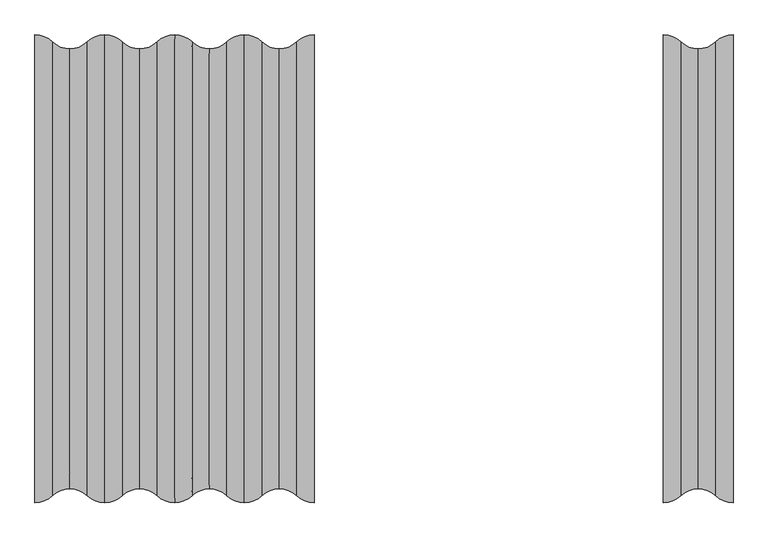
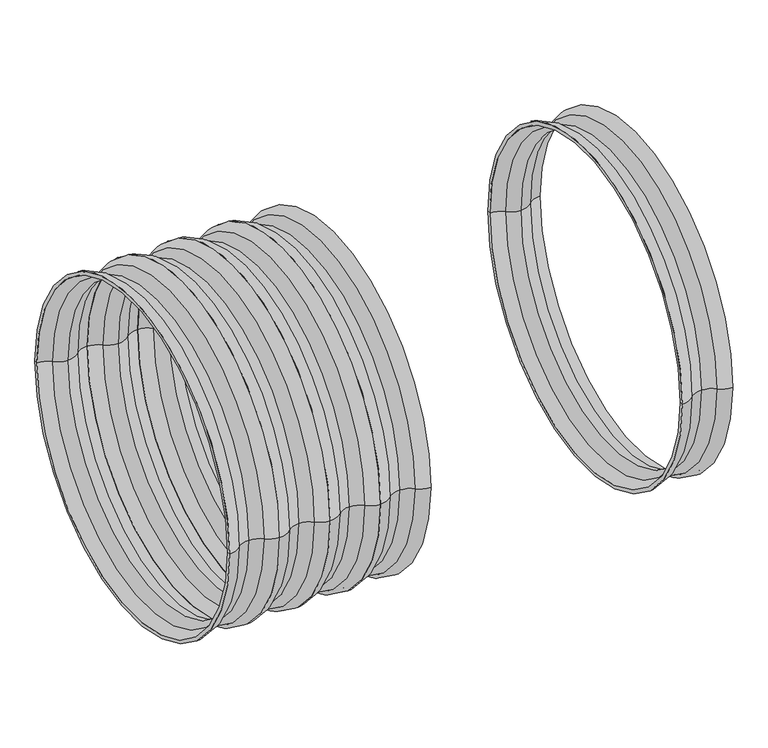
"""IFC4 building model written with IfcOpenShell, lengths in millimetres: pipe fitting geometry, Z_PIF_UN_Q-Bic_Plus_Shaft_Pipe_Wavin_(nested) : PP, RAL8012, ø600mm."""

from ifc_helpers import new_model, si_unit, point, frame, origin, place, context, project, spatial, circle_curve, ellipse_curve, trimmed, source, transform, mapped, element, save
from ifc_brep_helpers import plane_surface, revolved_surface, advanced_brep


def pipe_fitting_3dd59946(model_context):
    return source(origin(), model_context, "Body", "AdvancedBrep", [
        advanced_brep(
        [(400.0, -335.0, 0.0), (400.0, 335.0, 0.0), (425.0, 325.0, 0.0), (425.0, -325.0, 0.0), (400.0, -328.0, 0.0), (400.0, 328.0, 0.0), (425.0, -318.0, 0.0), (425.0, 318.0, 0.0), (450.0, -308.0, 0.0), (450.0, 308.0, 0.0), (475.0, -318.0, 0.0), (475.0, 318.0, 0.0), (500.0, -328.0, 0.0), (500.0, 328.0, 0.0), (500.0, -335.0, 0.0), (500.0, 335.0, 0.0), (475.0, -325.0, 0.0), (475.0, 325.0, 0.0), (450.0, -315.0, 0.0), (450.0, 315.0, 0.0)],
        [
            (0, 1, circle_curve(frame((400.0, 0.0, 0.0), z_axis=(1.0, 0.0, 0.0), x_axis=(0.0, 1.0, 0.0)), 335.0)),
            (1, 2, circle_curve(frame((400.0, 298.75, 0.0), z_axis=(0.0, 0.0, -1.0), x_axis=(1.0, 0.0, 0.0)), 36.25)),
            (2, 3, circle_curve(frame((425.0, 0.0, 0.0), z_axis=(-1.0, 0.0, 0.0), x_axis=(0.0, 1.0, 0.0)), 325.0)),
            (3, 0, circle_curve(frame((400.0, -298.75, 0.0), z_axis=(0.0, 0.0, -1.0), x_axis=(1.0, 0.0, 0.0)), 36.25)),
            (1, 0, circle_curve(frame((400.0, 0.0, 0.0), z_axis=(1.0, 0.0, 0.0), x_axis=(0.0, 1.0, 0.0)), 335.0)),
            (3, 2, circle_curve(frame((425.0, 0.0, 0.0), z_axis=(-1.0, 0.0, 0.0), x_axis=(0.0, 1.0, 0.0)), 325.0)),
            (4, 5, circle_curve(frame((400.0, 0.0, 0.0), z_axis=(1.0, 0.0, 0.0), x_axis=(0.0, 1.0, 0.0)), 328.0)),
            (5, 1),
            (0, 4),
            (5, 4, circle_curve(frame((400.0, 0.0, 0.0), z_axis=(1.0, 0.0, 0.0), x_axis=(0.0, 1.0, 0.0)), 328.0)),
            (6, 7, circle_curve(frame((425.0, 0.0, 0.0), z_axis=(1.0, 0.0, 0.0), x_axis=(0.0, 1.0, 0.0)), 318.0)),
            (7, 5, circle_curve(frame((400.0, 291.75, 0.0), z_axis=(0.0, 0.0, 1.0), x_axis=(1.0, 0.0, 0.0)), 36.25)),
            (4, 6, circle_curve(frame((400.0, -291.75, 0.0), z_axis=(0.0, 0.0, 1.0), x_axis=(1.0, 0.0, 0.0)), 36.25)),
            (7, 6, circle_curve(frame((425.0, 0.0, 0.0), z_axis=(1.0, 0.0, 0.0), x_axis=(0.0, 1.0, 0.0)), 318.0)),
            (8, 9, circle_curve(frame((450.0, 0.0, 0.0), z_axis=(1.0, 0.0, 0.0), x_axis=(0.0, 1.0, 0.0)), 308.0)),
            (9, 7, circle_curve(frame((450.0, 344.25, 0.0), z_axis=(0.0, 0.0, -1.0), x_axis=(1.0, 0.0, 0.0)), 36.25)),
            (6, 8, circle_curve(frame((450.0, -344.25, 0.0), z_axis=(0.0, 0.0, -1.0), x_axis=(1.0, 0.0, 0.0)), 36.25)),
            (9, 8, circle_curve(frame((450.0, 0.0, 0.0), z_axis=(1.0, 0.0, 0.0), x_axis=(0.0, 1.0, 0.0)), 308.0)),
            (10, 11, circle_curve(frame((475.0, 0.0, 0.0), z_axis=(1.0, 0.0, 0.0), x_axis=(0.0, 1.0, 0.0)), 318.0)),
            (11, 9, circle_curve(frame((450.0, 344.25, 0.0), z_axis=(0.0, 0.0, -1.0), x_axis=(1.0, 0.0, 0.0)), 36.25)),
            (8, 10, circle_curve(frame((450.0, -344.25, 0.0), z_axis=(0.0, 0.0, -1.0), x_axis=(1.0, 0.0, 0.0)), 36.25)),
            (11, 10, circle_curve(frame((475.0, 0.0, 0.0), z_axis=(1.0, 0.0, 0.0), x_axis=(0.0, 1.0, 0.0)), 318.0)),
            (12, 13, circle_curve(frame((500.0, 0.0, 0.0), z_axis=(1.0, 0.0, 0.0), x_axis=(0.0, 1.0, 0.0)), 328.0)),
            (13, 11, circle_curve(frame((500.0, 291.75, 0.0), z_axis=(0.0, 0.0, 1.0), x_axis=(1.0, 0.0, 0.0)), 36.25)),
            (10, 12, circle_curve(frame((500.0, -291.75, 0.0), z_axis=(0.0, 0.0, 1.0), x_axis=(1.0, 0.0, 0.0)), 36.25)),
            (13, 12, circle_curve(frame((500.0, 0.0, 0.0), z_axis=(1.0, 0.0, 0.0), x_axis=(0.0, 1.0, 0.0)), 328.0)),
            (14, 15, circle_curve(frame((500.0, 0.0, 0.0), z_axis=(1.0, 0.0, 0.0), x_axis=(0.0, 1.0, 0.0)), 335.0)),
            (15, 13),
            (12, 14),
            (15, 14, circle_curve(frame((500.0, 0.0, 0.0), z_axis=(1.0, 0.0, 0.0), x_axis=(0.0, 1.0, 0.0)), 335.0)),
            (16, 17, circle_curve(frame((475.0, 0.0, 0.0), z_axis=(1.0, 0.0, 0.0), x_axis=(0.0, 1.0, 0.0)), 325.0)),
            (17, 15, circle_curve(frame((500.0, 298.75, 0.0), z_axis=(0.0, 0.0, -1.0), x_axis=(1.0, 0.0, 0.0)), 36.25)),
            (14, 16, circle_curve(frame((500.0, -298.75, 0.0), z_axis=(0.0, 0.0, -1.0), x_axis=(1.0, 0.0, 0.0)), 36.25)),
            (17, 16, circle_curve(frame((475.0, 0.0, 0.0), z_axis=(1.0, 0.0, 0.0), x_axis=(0.0, 1.0, 0.0)), 325.0)),
            (18, 19, circle_curve(frame((450.0, 0.0, 0.0), z_axis=(1.0, 0.0, 0.0), x_axis=(0.0, 1.0, 0.0)), 315.0)),
            (19, 17, circle_curve(frame((450.0, 351.25, 0.0), z_axis=(0.0, 0.0, 1.0), x_axis=(1.0, 0.0, 0.0)), 36.25)),
            (16, 18, circle_curve(frame((450.0, -351.25, 0.0), z_axis=(0.0, 0.0, 1.0), x_axis=(1.0, 0.0, 0.0)), 36.25)),
            (19, 18, circle_curve(frame((450.0, 0.0, 0.0), z_axis=(1.0, 0.0, 0.0), x_axis=(0.0, 1.0, 0.0)), 315.0)),
            (2, 19, circle_curve(frame((450.0, 351.25, 0.0), z_axis=(0.0, 0.0, 1.0), x_axis=(1.0, 0.0, 0.0)), 36.25)),
            (18, 3, circle_curve(frame((450.0, -351.25, 0.0), z_axis=(0.0, 0.0, 1.0), x_axis=(1.0, 0.0, 0.0)), 36.25)),
        ],
        [
            revolved_surface(trimmed(ellipse_curve(frame((400.0, 298.75, 0.0), z_axis=(0.0, 0.0, 1.0), x_axis=(1.0, 0.0, 0.0)), 36.25, 36.25), [point((425.0, 325.0, 0.0))], [point((400.0, 335.0, 0.0))], True, "CARTESIAN"), (350.0, 0.0, 0.0), (-1.0, 0.0, 0.0)),
            plane_surface(frame((400.0, 0.0, 0.0), z_axis=(-1.0, 0.0, 0.0), x_axis=(0.0, 1.0, 0.0))),
            revolved_surface(trimmed(ellipse_curve(frame((400.0, 291.75, 0.0), z_axis=(0.0, 0.0, -1.0), x_axis=(1.0, 0.0, 0.0)), 36.25, 36.25), [point((400.0, 328.0, 0.0))], [point((425.0, 318.0, 0.0))], True, "CARTESIAN"), (350.0, 0.0, 0.0), (-1.0, 0.0, 0.0)),
            revolved_surface(trimmed(ellipse_curve(frame((450.0, 344.25, 0.0), z_axis=(0.0, 0.0, 1.0), x_axis=(1.0, 0.0, 0.0)), 36.25, 36.25), [point((425.0, 318.0, 0.0))], [point((450.0, 308.0, 0.0))], True, "CARTESIAN"), (350.0, 0.0, 0.0), (-1.0, 0.0, 0.0)),
            revolved_surface(trimmed(ellipse_curve(frame((450.0, 344.25, 0.0), z_axis=(0.0, 0.0, 1.0), x_axis=(1.0, 0.0, 0.0)), 36.25, 36.25), [point((450.0, 308.0, 0.0))], [point((475.0, 318.0, 0.0))], True, "CARTESIAN"), (350.0, 0.0, 0.0), (-1.0, 0.0, 0.0)),
            revolved_surface(trimmed(ellipse_curve(frame((500.0, 291.75, 0.0), z_axis=(0.0, 0.0, -1.0), x_axis=(1.0, 0.0, 0.0)), 36.25, 36.25), [point((475.0, 318.0, 0.0))], [point((500.0, 328.0, 0.0))], True, "CARTESIAN"), (350.0, 0.0, 0.0), (-1.0, 0.0, 0.0)),
            plane_surface(frame((500.0, 0.0, 0.0), z_axis=(1.0, 0.0, 0.0), x_axis=(0.0, 1.0, 0.0))),
            revolved_surface(trimmed(ellipse_curve(frame((500.0, 298.75, 0.0), z_axis=(0.0, 0.0, 1.0), x_axis=(1.0, 0.0, 0.0)), 36.25, 36.25), [point((500.0, 335.0, 0.0))], [point((475.0, 325.0, 0.0))], True, "CARTESIAN"), (350.0, 0.0, 0.0), (-1.0, 0.0, 0.0)),
            revolved_surface(trimmed(ellipse_curve(frame((450.0, 351.25, 0.0), z_axis=(0.0, 0.0, -1.0), x_axis=(1.0, 0.0, 0.0)), 36.25, 36.25), [point((475.0, 325.0, 0.0))], [point((450.0, 315.0, 0.0))], True, "CARTESIAN"), (350.0, 0.0, 0.0), (-1.0, 0.0, 0.0)),
            revolved_surface(trimmed(ellipse_curve(frame((450.0, 351.25, 0.0), z_axis=(0.0, 0.0, -1.0), x_axis=(1.0, 0.0, 0.0)), 36.25, 36.25), [point((450.0, 315.0, 0.0))], [point((425.0, 325.0, 0.0))], True, "CARTESIAN"), (350.0, 0.0, 0.0), (-1.0, 0.0, 0.0)),
        ],
        [
            (0, [[1, 2, 3, 4]]),
            (0, [[5, -4, 6, -2]]),
            (1, [[7, 8, -1, 9]]),
            (1, [[10, -9, -5, -8]]),
            (2, [[11, 12, -7, 13]]),
            (2, [[14, -13, -10, -12]]),
            (3, [[15, 16, -11, 17]]),
            (3, [[18, -17, -14, -16]]),
            (4, [[19, 20, -15, 21]]),
            (4, [[22, -21, -18, -20]]),
            (5, [[23, 24, -19, 25]]),
            (5, [[26, -25, -22, -24]]),
            (6, [[27, 28, -23, 29]]),
            (6, [[30, -29, -26, -28]]),
            (7, [[31, 32, -27, 33]]),
            (7, [[34, -33, -30, -32]]),
            (8, [[35, 36, -31, 37]]),
            (8, [[38, -37, -34, -36]]),
            (9, [[-3, 39, -35, 40]]),
            (9, [[-6, -40, -38, -39]]),
        ],
    ),
        advanced_brep(
        [(300.0, -335.0, 0.0), (300.0, 335.0, 0.0), (325.0, 325.0, 0.0), (325.0, -325.0, 0.0), (300.0, -328.0, 0.0), (300.0, 328.0, 0.0), (325.0, -318.0, 0.0), (325.0, 318.0, 0.0), (350.0, -308.0, 0.0), (350.0, 308.0, 0.0), (375.0, -318.0, 0.0), (375.0, 318.0, 0.0), (400.0, -328.0, 0.0), (400.0, 328.0, 0.0), (400.0, -335.0, 0.0), (400.0, 335.0, 0.0), (375.0, -325.0, 0.0), (375.0, 325.0, 0.0), (350.0, -315.0, 0.0), (350.0, 315.0, 0.0)],
        [
            (0, 1, circle_curve(frame((300.0, 0.0, 0.0), z_axis=(1.0, 0.0, 0.0), x_axis=(0.0, 1.0, 0.0)), 335.0)),
            (1, 2, circle_curve(frame((300.0, 298.75, 0.0), z_axis=(0.0, 0.0, -1.0), x_axis=(1.0, 0.0, 0.0)), 36.25)),
            (2, 3, circle_curve(frame((325.0, 0.0, 0.0), z_axis=(-1.0, 0.0, 0.0), x_axis=(0.0, 1.0, 0.0)), 325.0)),
            (3, 0, circle_curve(frame((300.0, -298.75, 0.0), z_axis=(0.0, 0.0, -1.0), x_axis=(1.0, 0.0, 0.0)), 36.25)),
            (1, 0, circle_curve(frame((300.0, 0.0, 0.0), z_axis=(1.0, 0.0, 0.0), x_axis=(0.0, 1.0, 0.0)), 335.0)),
            (3, 2, circle_curve(frame((325.0, 0.0, 0.0), z_axis=(-1.0, 0.0, 0.0), x_axis=(0.0, 1.0, 0.0)), 325.0)),
            (4, 5, circle_curve(frame((300.0, 0.0, 0.0), z_axis=(1.0, 0.0, 0.0), x_axis=(0.0, 1.0, 0.0)), 328.0)),
            (5, 1),
            (0, 4),
            (5, 4, circle_curve(frame((300.0, 0.0, 0.0), z_axis=(1.0, 0.0, 0.0), x_axis=(0.0, 1.0, 0.0)), 328.0)),
            (6, 7, circle_curve(frame((325.0, 0.0, 0.0), z_axis=(1.0, 0.0, 0.0), x_axis=(0.0, 1.0, 0.0)), 318.0)),
            (7, 5, circle_curve(frame((300.0, 291.75, 0.0), z_axis=(0.0, 0.0, 1.0), x_axis=(1.0, 0.0, 0.0)), 36.25)),
            (4, 6, circle_curve(frame((300.0, -291.75, 0.0), z_axis=(0.0, 0.0, 1.0), x_axis=(1.0, 0.0, 0.0)), 36.25)),
            (7, 6, circle_curve(frame((325.0, 0.0, 0.0), z_axis=(1.0, 0.0, 0.0), x_axis=(0.0, 1.0, 0.0)), 318.0)),
            (8, 9, circle_curve(frame((350.0, 0.0, 0.0), z_axis=(1.0, 0.0, 0.0), x_axis=(0.0, 1.0, 0.0)), 308.0)),
            (9, 7, circle_curve(frame((350.0, 344.25, 0.0), z_axis=(0.0, 0.0, -1.0), x_axis=(1.0, 0.0, 0.0)), 36.25)),
            (6, 8, circle_curve(frame((350.0, -344.25, 0.0), z_axis=(0.0, 0.0, -1.0), x_axis=(1.0, 0.0, 0.0)), 36.25)),
            (9, 8, circle_curve(frame((350.0, 0.0, 0.0), z_axis=(1.0, 0.0, 0.0), x_axis=(0.0, 1.0, 0.0)), 308.0)),
            (10, 11, circle_curve(frame((375.0, 0.0, 0.0), z_axis=(1.0, 0.0, 0.0), x_axis=(0.0, 1.0, 0.0)), 318.0)),
            (11, 9, circle_curve(frame((350.0, 344.25, 0.0), z_axis=(0.0, 0.0, -1.0), x_axis=(1.0, 0.0, 0.0)), 36.25)),
            (8, 10, circle_curve(frame((350.0, -344.25, 0.0), z_axis=(0.0, 0.0, -1.0), x_axis=(1.0, 0.0, 0.0)), 36.25)),
            (11, 10, circle_curve(frame((375.0, 0.0, 0.0), z_axis=(1.0, 0.0, 0.0), x_axis=(0.0, 1.0, 0.0)), 318.0)),
            (12, 13, circle_curve(frame((400.0, 0.0, 0.0), z_axis=(1.0, 0.0, 0.0), x_axis=(0.0, 1.0, 0.0)), 328.0)),
            (13, 11, circle_curve(frame((400.0, 291.75, 0.0), z_axis=(0.0, 0.0, 1.0), x_axis=(1.0, 0.0, 0.0)), 36.25)),
            (10, 12, circle_curve(frame((400.0, -291.75, 0.0), z_axis=(0.0, 0.0, 1.0), x_axis=(1.0, 0.0, 0.0)), 36.25)),
            (13, 12, circle_curve(frame((400.0, 0.0, 0.0), z_axis=(1.0, 0.0, 0.0), x_axis=(0.0, 1.0, 0.0)), 328.0)),
            (14, 15, circle_curve(frame((400.0, 0.0, 0.0), z_axis=(1.0, 0.0, 0.0), x_axis=(0.0, 1.0, 0.0)), 335.0)),
            (15, 13),
            (12, 14),
            (15, 14, circle_curve(frame((400.0, 0.0, 0.0), z_axis=(1.0, 0.0, 0.0), x_axis=(0.0, 1.0, 0.0)), 335.0)),
            (16, 17, circle_curve(frame((375.0, 0.0, 0.0), z_axis=(1.0, 0.0, 0.0), x_axis=(0.0, 1.0, 0.0)), 325.0)),
            (17, 15, circle_curve(frame((400.0, 298.75, 0.0), z_axis=(0.0, 0.0, -1.0), x_axis=(1.0, 0.0, 0.0)), 36.25)),
            (14, 16, circle_curve(frame((400.0, -298.75, 0.0), z_axis=(0.0, 0.0, -1.0), x_axis=(1.0, 0.0, 0.0)), 36.25)),
            (17, 16, circle_curve(frame((375.0, 0.0, 0.0), z_axis=(1.0, 0.0, 0.0), x_axis=(0.0, 1.0, 0.0)), 325.0)),
            (18, 19, circle_curve(frame((350.0, 0.0, 0.0), z_axis=(1.0, 0.0, 0.0), x_axis=(0.0, 1.0, 0.0)), 315.0)),
            (19, 17, circle_curve(frame((350.0, 351.25, 0.0), z_axis=(0.0, 0.0, 1.0), x_axis=(1.0, 0.0, 0.0)), 36.25)),
            (16, 18, circle_curve(frame((350.0, -351.25, 0.0), z_axis=(0.0, 0.0, 1.0), x_axis=(1.0, 0.0, 0.0)), 36.25)),
            (19, 18, circle_curve(frame((350.0, 0.0, 0.0), z_axis=(1.0, 0.0, 0.0), x_axis=(0.0, 1.0, 0.0)), 315.0)),
            (2, 19, circle_curve(frame((350.0, 351.25, 0.0), z_axis=(0.0, 0.0, 1.0), x_axis=(1.0, 0.0, 0.0)), 36.25)),
            (18, 3, circle_curve(frame((350.0, -351.25, 0.0), z_axis=(0.0, 0.0, 1.0), x_axis=(1.0, 0.0, 0.0)), 36.25)),
        ],
        [
            revolved_surface(trimmed(ellipse_curve(frame((300.0, 298.75, 0.0), z_axis=(0.0, 0.0, 1.0), x_axis=(1.0, 0.0, 0.0)), 36.25, 36.25), [point((325.0, 325.0, 0.0))], [point((300.0, 335.0, 0.0))], True, "CARTESIAN"), (250.0, 0.0, 0.0), (-1.0, 0.0, 0.0)),
            plane_surface(frame((300.0, 0.0, 0.0), z_axis=(-1.0, 0.0, 0.0), x_axis=(0.0, 1.0, 0.0))),
            revolved_surface(trimmed(ellipse_curve(frame((300.0, 291.75, 0.0), z_axis=(0.0, 0.0, -1.0), x_axis=(1.0, 0.0, 0.0)), 36.25, 36.25), [point((300.0, 328.0, 0.0))], [point((325.0, 318.0, 0.0))], True, "CARTESIAN"), (250.0, 0.0, 0.0), (-1.0, 0.0, 0.0)),
            revolved_surface(trimmed(ellipse_curve(frame((350.0, 344.25, 0.0), z_axis=(0.0, 0.0, 1.0), x_axis=(1.0, 0.0, 0.0)), 36.25, 36.25), [point((325.0, 318.0, 0.0))], [point((350.0, 308.0, 0.0))], True, "CARTESIAN"), (250.0, 0.0, 0.0), (-1.0, 0.0, 0.0)),
            revolved_surface(trimmed(ellipse_curve(frame((350.0, 344.25, 0.0), z_axis=(0.0, 0.0, 1.0), x_axis=(1.0, 0.0, 0.0)), 36.25, 36.25), [point((350.0, 308.0, 0.0))], [point((375.0, 318.0, 0.0))], True, "CARTESIAN"), (250.0, 0.0, 0.0), (-1.0, 0.0, 0.0)),
            revolved_surface(trimmed(ellipse_curve(frame((400.0, 291.75, 0.0), z_axis=(0.0, 0.0, -1.0), x_axis=(1.0, 0.0, 0.0)), 36.25, 36.25), [point((375.0, 318.0, 0.0))], [point((400.0, 328.0, 0.0))], True, "CARTESIAN"), (250.0, 0.0, 0.0), (-1.0, 0.0, 0.0)),
            plane_surface(frame((400.0, 0.0, 0.0), z_axis=(1.0, 0.0, 0.0), x_axis=(0.0, 1.0, 0.0))),
            revolved_surface(trimmed(ellipse_curve(frame((400.0, 298.75, 0.0), z_axis=(0.0, 0.0, 1.0), x_axis=(1.0, 0.0, 0.0)), 36.25, 36.25), [point((400.0, 335.0, 0.0))], [point((375.0, 325.0, 0.0))], True, "CARTESIAN"), (250.0, 0.0, 0.0), (-1.0, 0.0, 0.0)),
            revolved_surface(trimmed(ellipse_curve(frame((350.0, 351.25, 0.0), z_axis=(0.0, 0.0, -1.0), x_axis=(1.0, 0.0, 0.0)), 36.25, 36.25), [point((375.0, 325.0, 0.0))], [point((350.0, 315.0, 0.0))], True, "CARTESIAN"), (250.0, 0.0, 0.0), (-1.0, 0.0, 0.0)),
            revolved_surface(trimmed(ellipse_curve(frame((350.0, 351.25, 0.0), z_axis=(0.0, 0.0, -1.0), x_axis=(1.0, 0.0, 0.0)), 36.25, 36.25), [point((350.0, 315.0, 0.0))], [point((325.0, 325.0, 0.0))], True, "CARTESIAN"), (250.0, 0.0, 0.0), (-1.0, 0.0, 0.0)),
        ],
        [
            (0, [[1, 2, 3, 4]]),
            (0, [[5, -4, 6, -2]]),
            (1, [[7, 8, -1, 9]]),
            (1, [[10, -9, -5, -8]]),
            (2, [[11, 12, -7, 13]]),
            (2, [[14, -13, -10, -12]]),
            (3, [[15, 16, -11, 17]]),
            (3, [[18, -17, -14, -16]]),
            (4, [[19, 20, -15, 21]]),
            (4, [[22, -21, -18, -20]]),
            (5, [[23, 24, -19, 25]]),
            (5, [[26, -25, -22, -24]]),
            (6, [[27, 28, -23, 29]]),
            (6, [[30, -29, -26, -28]]),
            (7, [[31, 32, -27, 33]]),
            (7, [[34, -33, -30, -32]]),
            (8, [[35, 36, -31, 37]]),
            (8, [[38, -37, -34, -36]]),
            (9, [[-3, 39, -35, 40]]),
            (9, [[-6, -40, -38, -39]]),
        ],
    ),
        advanced_brep(
        [(200.0, -335.0, 0.0), (200.0, 335.0, 0.0), (225.0, 325.0, 0.0), (225.0, -325.0, 0.0), (200.0, -328.0, 0.0), (200.0, 328.0, 0.0), (225.0, -318.0, 0.0), (225.0, 318.0, 0.0), (250.0, -308.0, 0.0), (250.0, 308.0, 0.0), (275.0, -318.0, 0.0), (275.0, 318.0, 0.0), (300.0, -328.0, 0.0), (300.0, 328.0, 0.0), (300.0, -335.0, 0.0), (300.0, 335.0, 0.0), (275.0, -325.0, 0.0), (275.0, 325.0, 0.0), (250.0, -315.0, 0.0), (250.0, 315.0, 0.0)],
        [
            (0, 1, circle_curve(frame((200.0, 0.0, 0.0), z_axis=(1.0, 0.0, 0.0), x_axis=(0.0, 1.0, 0.0)), 335.0)),
            (1, 2, circle_curve(frame((200.0, 298.75, 0.0), z_axis=(0.0, 0.0, -1.0), x_axis=(1.0, 0.0, 0.0)), 36.25)),
            (2, 3, circle_curve(frame((225.0, 0.0, 0.0), z_axis=(-1.0, 0.0, 0.0), x_axis=(0.0, 1.0, 0.0)), 325.0)),
            (3, 0, circle_curve(frame((200.0, -298.75, 0.0), z_axis=(0.0, 0.0, -1.0), x_axis=(1.0, 0.0, 0.0)), 36.25)),
            (1, 0, circle_curve(frame((200.0, 0.0, 0.0), z_axis=(1.0, 0.0, 0.0), x_axis=(0.0, 1.0, 0.0)), 335.0)),
            (3, 2, circle_curve(frame((225.0, 0.0, 0.0), z_axis=(-1.0, 0.0, 0.0), x_axis=(0.0, 1.0, 0.0)), 325.0)),
            (4, 5, circle_curve(frame((200.0, 0.0, 0.0), z_axis=(1.0, 0.0, 0.0), x_axis=(0.0, 1.0, 0.0)), 328.0)),
            (5, 1),
            (0, 4),
            (5, 4, circle_curve(frame((200.0, 0.0, 0.0), z_axis=(1.0, 0.0, 0.0), x_axis=(0.0, 1.0, 0.0)), 328.0)),
            (6, 7, circle_curve(frame((225.0, 0.0, 0.0), z_axis=(1.0, 0.0, 0.0), x_axis=(0.0, 1.0, 0.0)), 318.0)),
            (7, 5, circle_curve(frame((200.0, 291.75, 0.0), z_axis=(0.0, 0.0, 1.0), x_axis=(1.0, 0.0, 0.0)), 36.25)),
            (4, 6, circle_curve(frame((200.0, -291.75, 0.0), z_axis=(0.0, 0.0, 1.0), x_axis=(1.0, 0.0, 0.0)), 36.25)),
            (7, 6, circle_curve(frame((225.0, 0.0, 0.0), z_axis=(1.0, 0.0, 0.0), x_axis=(0.0, 1.0, 0.0)), 318.0)),
            (8, 9, circle_curve(frame((250.0, 0.0, 0.0), z_axis=(1.0, 0.0, 0.0), x_axis=(0.0, 1.0, 0.0)), 308.0)),
            (9, 7, circle_curve(frame((250.0, 344.25, 0.0), z_axis=(0.0, 0.0, -1.0), x_axis=(1.0, 0.0, 0.0)), 36.25)),
            (6, 8, circle_curve(frame((250.0, -344.25, 0.0), z_axis=(0.0, 0.0, -1.0), x_axis=(1.0, 0.0, 0.0)), 36.25)),
            (9, 8, circle_curve(frame((250.0, 0.0, 0.0), z_axis=(1.0, 0.0, 0.0), x_axis=(0.0, 1.0, 0.0)), 308.0)),
            (10, 11, circle_curve(frame((275.0, 0.0, 0.0), z_axis=(1.0, 0.0, 0.0), x_axis=(0.0, 1.0, 0.0)), 318.0)),
            (11, 9, circle_curve(frame((250.0, 344.25, 0.0), z_axis=(0.0, 0.0, -1.0), x_axis=(1.0, 0.0, 0.0)), 36.25)),
            (8, 10, circle_curve(frame((250.0, -344.25, 0.0), z_axis=(0.0, 0.0, -1.0), x_axis=(1.0, 0.0, 0.0)), 36.25)),
            (11, 10, circle_curve(frame((275.0, 0.0, 0.0), z_axis=(1.0, 0.0, 0.0), x_axis=(0.0, 1.0, 0.0)), 318.0)),
            (12, 13, circle_curve(frame((300.0, 0.0, 0.0), z_axis=(1.0, 0.0, 0.0), x_axis=(0.0, 1.0, 0.0)), 328.0)),
            (13, 11, circle_curve(frame((300.0, 291.75, 0.0), z_axis=(0.0, 0.0, 1.0), x_axis=(1.0, 0.0, 0.0)), 36.25)),
            (10, 12, circle_curve(frame((300.0, -291.75, 0.0), z_axis=(0.0, 0.0, 1.0), x_axis=(1.0, 0.0, 0.0)), 36.25)),
            (13, 12, circle_curve(frame((300.0, 0.0, 0.0), z_axis=(1.0, 0.0, 0.0), x_axis=(0.0, 1.0, 0.0)), 328.0)),
            (14, 15, circle_curve(frame((300.0, 0.0, 0.0), z_axis=(1.0, 0.0, 0.0), x_axis=(0.0, 1.0, 0.0)), 335.0)),
            (15, 13),
            (12, 14),
            (15, 14, circle_curve(frame((300.0, 0.0, 0.0), z_axis=(1.0, 0.0, 0.0), x_axis=(0.0, 1.0, 0.0)), 335.0)),
            (16, 17, circle_curve(frame((275.0, 0.0, 0.0), z_axis=(1.0, 0.0, 0.0), x_axis=(0.0, 1.0, 0.0)), 325.0)),
            (17, 15, circle_curve(frame((300.0, 298.75, 0.0), z_axis=(0.0, 0.0, -1.0), x_axis=(1.0, 0.0, 0.0)), 36.25)),
            (14, 16, circle_curve(frame((300.0, -298.75, 0.0), z_axis=(0.0, 0.0, -1.0), x_axis=(1.0, 0.0, 0.0)), 36.25)),
            (17, 16, circle_curve(frame((275.0, 0.0, 0.0), z_axis=(1.0, 0.0, 0.0), x_axis=(0.0, 1.0, 0.0)), 325.0)),
            (18, 19, circle_curve(frame((250.0, 0.0, 0.0), z_axis=(1.0, 0.0, 0.0), x_axis=(0.0, 1.0, 0.0)), 315.0)),
            (19, 17, circle_curve(frame((250.0, 351.25, 0.0), z_axis=(0.0, 0.0, 1.0), x_axis=(1.0, 0.0, 0.0)), 36.25)),
            (16, 18, circle_curve(frame((250.0, -351.25, 0.0), z_axis=(0.0, 0.0, 1.0), x_axis=(1.0, 0.0, 0.0)), 36.25)),
            (19, 18, circle_curve(frame((250.0, 0.0, 0.0), z_axis=(1.0, 0.0, 0.0), x_axis=(0.0, 1.0, 0.0)), 315.0)),
            (2, 19, circle_curve(frame((250.0, 351.25, 0.0), z_axis=(0.0, 0.0, 1.0), x_axis=(1.0, 0.0, 0.0)), 36.25)),
            (18, 3, circle_curve(frame((250.0, -351.25, 0.0), z_axis=(0.0, 0.0, 1.0), x_axis=(1.0, 0.0, 0.0)), 36.25)),
        ],
        [
            revolved_surface(trimmed(ellipse_curve(frame((200.0, 298.75, 0.0), z_axis=(0.0, 0.0, 1.0), x_axis=(1.0, 0.0, 0.0)), 36.25, 36.25), [point((225.0, 325.0, 0.0))], [point((200.0, 335.0, 0.0))], True, "CARTESIAN"), (150.0, 0.0, 0.0), (-1.0, 0.0, 0.0)),
            plane_surface(frame((200.0, 0.0, 0.0), z_axis=(-1.0, 0.0, 0.0), x_axis=(0.0, 1.0, 0.0))),
            revolved_surface(trimmed(ellipse_curve(frame((200.0, 291.75, 0.0), z_axis=(0.0, 0.0, -1.0), x_axis=(1.0, 0.0, 0.0)), 36.25, 36.25), [point((200.0, 328.0, 0.0))], [point((225.0, 318.0, 0.0))], True, "CARTESIAN"), (150.0, 0.0, 0.0), (-1.0, 0.0, 0.0)),
            revolved_surface(trimmed(ellipse_curve(frame((250.0, 344.25, 0.0), z_axis=(0.0, 0.0, 1.0), x_axis=(1.0, 0.0, 0.0)), 36.25, 36.25), [point((225.0, 318.0, 0.0))], [point((250.0, 308.0, 0.0))], True, "CARTESIAN"), (150.0, 0.0, 0.0), (-1.0, 0.0, 0.0)),
            revolved_surface(trimmed(ellipse_curve(frame((250.0, 344.25, 0.0), z_axis=(0.0, 0.0, 1.0), x_axis=(1.0, 0.0, 0.0)), 36.25, 36.25), [point((250.0, 308.0, 0.0))], [point((275.0, 318.0, 0.0))], True, "CARTESIAN"), (150.0, 0.0, 0.0), (-1.0, 0.0, 0.0)),
            revolved_surface(trimmed(ellipse_curve(frame((300.0, 291.75, 0.0), z_axis=(0.0, 0.0, -1.0), x_axis=(1.0, 0.0, 0.0)), 36.25, 36.25), [point((275.0, 318.0, 0.0))], [point((300.0, 328.0, 0.0))], True, "CARTESIAN"), (150.0, 0.0, 0.0), (-1.0, 0.0, 0.0)),
            plane_surface(frame((300.0, 0.0, 0.0), z_axis=(1.0, 0.0, 0.0), x_axis=(0.0, 1.0, 0.0))),
            revolved_surface(trimmed(ellipse_curve(frame((300.0, 298.75, 0.0), z_axis=(0.0, 0.0, 1.0), x_axis=(1.0, 0.0, 0.0)), 36.25, 36.25), [point((300.0, 335.0, 0.0))], [point((275.0, 325.0, 0.0))], True, "CARTESIAN"), (150.0, 0.0, 0.0), (-1.0, 0.0, 0.0)),
            revolved_surface(trimmed(ellipse_curve(frame((250.0, 351.25, 0.0), z_axis=(0.0, 0.0, -1.0), x_axis=(1.0, 0.0, 0.0)), 36.25, 36.25), [point((275.0, 325.0, 0.0))], [point((250.0, 315.0, 0.0))], True, "CARTESIAN"), (150.0, 0.0, 0.0), (-1.0, 0.0, 0.0)),
            revolved_surface(trimmed(ellipse_curve(frame((250.0, 351.25, 0.0), z_axis=(0.0, 0.0, -1.0), x_axis=(1.0, 0.0, 0.0)), 36.25, 36.25), [point((250.0, 315.0, 0.0))], [point((225.0, 325.0, 0.0))], True, "CARTESIAN"), (150.0, 0.0, 0.0), (-1.0, 0.0, 0.0)),
        ],
        [
            (0, [[1, 2, 3, 4]]),
            (0, [[5, -4, 6, -2]]),
            (1, [[7, 8, -1, 9]]),
            (1, [[10, -9, -5, -8]]),
            (2, [[11, 12, -7, 13]]),
            (2, [[14, -13, -10, -12]]),
            (3, [[15, 16, -11, 17]]),
            (3, [[18, -17, -14, -16]]),
            (4, [[19, 20, -15, 21]]),
            (4, [[22, -21, -18, -20]]),
            (5, [[23, 24, -19, 25]]),
            (5, [[26, -25, -22, -24]]),
            (6, [[27, 28, -23, 29]]),
            (6, [[30, -29, -26, -28]]),
            (7, [[31, 32, -27, 33]]),
            (7, [[34, -33, -30, -32]]),
            (8, [[35, 36, -31, 37]]),
            (8, [[38, -37, -34, -36]]),
            (9, [[-3, 39, -35, 40]]),
            (9, [[-6, -40, -38, -39]]),
        ],
    ),
        advanced_brep(
        [(100.0, -335.0, 0.0), (100.0, 335.0, 0.0), (125.0, 325.0, 0.0), (125.0, -325.0, 0.0), (100.0, -328.0, 0.0), (100.0, 328.0, 0.0), (125.0, -318.0, 0.0), (125.0, 318.0, 0.0), (150.0, -308.0, 0.0), (150.0, 308.0, 0.0), (175.0, -318.0, 0.0), (175.0, 318.0, 0.0), (200.0, -328.0, 0.0), (200.0, 328.0, 0.0), (200.0, -335.0, 0.0), (200.0, 335.0, 0.0), (175.0, -325.0, 0.0), (175.0, 325.0, 0.0), (150.0, -315.0, 0.0), (150.0, 315.0, 0.0)],
        [
            (0, 1, circle_curve(frame((100.0, 0.0, 0.0), z_axis=(1.0, 0.0, 0.0), x_axis=(0.0, 1.0, 0.0)), 335.0)),
            (1, 2, circle_curve(frame((100.0, 298.75, 0.0), z_axis=(0.0, 0.0, -1.0), x_axis=(1.0, 0.0, 0.0)), 36.25)),
            (2, 3, circle_curve(frame((125.0, 0.0, 0.0), z_axis=(-1.0, 0.0, 0.0), x_axis=(0.0, 1.0, 0.0)), 325.0)),
            (3, 0, circle_curve(frame((100.0, -298.75, 0.0), z_axis=(0.0, 0.0, -1.0), x_axis=(1.0, 0.0, 0.0)), 36.25)),
            (1, 0, circle_curve(frame((100.0, 0.0, 0.0), z_axis=(1.0, 0.0, 0.0), x_axis=(0.0, 1.0, 0.0)), 335.0)),
            (3, 2, circle_curve(frame((125.0, 0.0, 0.0), z_axis=(-1.0, 0.0, 0.0), x_axis=(0.0, 1.0, 0.0)), 325.0)),
            (4, 5, circle_curve(frame((100.0, 0.0, 0.0), z_axis=(1.0, 0.0, 0.0), x_axis=(0.0, 1.0, 0.0)), 328.0)),
            (5, 1),
            (0, 4),
            (5, 4, circle_curve(frame((100.0, 0.0, 0.0), z_axis=(1.0, 0.0, 0.0), x_axis=(0.0, 1.0, 0.0)), 328.0)),
            (6, 7, circle_curve(frame((125.0, 0.0, 0.0), z_axis=(1.0, 0.0, 0.0), x_axis=(0.0, 1.0, 0.0)), 318.0)),
            (7, 5, circle_curve(frame((100.0, 291.75, 0.0), z_axis=(0.0, 0.0, 1.0), x_axis=(1.0, 0.0, 0.0)), 36.25)),
            (4, 6, circle_curve(frame((100.0, -291.75, 0.0), z_axis=(0.0, 0.0, 1.0), x_axis=(1.0, 0.0, 0.0)), 36.25)),
            (7, 6, circle_curve(frame((125.0, 0.0, 0.0), z_axis=(1.0, 0.0, 0.0), x_axis=(0.0, 1.0, 0.0)), 318.0)),
            (8, 9, circle_curve(frame((150.0, 0.0, 0.0), z_axis=(1.0, 0.0, 0.0), x_axis=(0.0, 1.0, 0.0)), 308.0)),
            (9, 7, circle_curve(frame((150.0, 344.25, 0.0), z_axis=(0.0, 0.0, -1.0), x_axis=(1.0, 0.0, 0.0)), 36.25)),
            (6, 8, circle_curve(frame((150.0, -344.25, 0.0), z_axis=(0.0, 0.0, -1.0), x_axis=(1.0, 0.0, 0.0)), 36.25)),
            (9, 8, circle_curve(frame((150.0, 0.0, 0.0), z_axis=(1.0, 0.0, 0.0), x_axis=(0.0, 1.0, 0.0)), 308.0)),
            (10, 11, circle_curve(frame((175.0, 0.0, 0.0), z_axis=(1.0, 0.0, 0.0), x_axis=(0.0, 1.0, 0.0)), 318.0)),
            (11, 9, circle_curve(frame((150.0, 344.25, 0.0), z_axis=(0.0, 0.0, -1.0), x_axis=(1.0, 0.0, 0.0)), 36.25)),
            (8, 10, circle_curve(frame((150.0, -344.25, 0.0), z_axis=(0.0, 0.0, -1.0), x_axis=(1.0, 0.0, 0.0)), 36.25)),
            (11, 10, circle_curve(frame((175.0, 0.0, 0.0), z_axis=(1.0, 0.0, 0.0), x_axis=(0.0, 1.0, 0.0)), 318.0)),
            (12, 13, circle_curve(frame((200.0, 0.0, 0.0), z_axis=(1.0, 0.0, 0.0), x_axis=(0.0, 1.0, 0.0)), 328.0)),
            (13, 11, circle_curve(frame((200.0, 291.75, 0.0), z_axis=(0.0, 0.0, 1.0), x_axis=(1.0, 0.0, 0.0)), 36.25)),
            (10, 12, circle_curve(frame((200.0, -291.75, 0.0), z_axis=(0.0, 0.0, 1.0), x_axis=(1.0, 0.0, 0.0)), 36.25)),
            (13, 12, circle_curve(frame((200.0, 0.0, 0.0), z_axis=(1.0, 0.0, 0.0), x_axis=(0.0, 1.0, 0.0)), 328.0)),
            (14, 15, circle_curve(frame((200.0, 0.0, 0.0), z_axis=(1.0, 0.0, 0.0), x_axis=(0.0, 1.0, 0.0)), 335.0)),
            (15, 13),
            (12, 14),
            (15, 14, circle_curve(frame((200.0, 0.0, 0.0), z_axis=(1.0, 0.0, 0.0), x_axis=(0.0, 1.0, 0.0)), 335.0)),
            (16, 17, circle_curve(frame((175.0, 0.0, 0.0), z_axis=(1.0, 0.0, 0.0), x_axis=(0.0, 1.0, 0.0)), 325.0)),
            (17, 15, circle_curve(frame((200.0, 298.75, 0.0), z_axis=(0.0, 0.0, -1.0), x_axis=(1.0, 0.0, 0.0)), 36.25)),
            (14, 16, circle_curve(frame((200.0, -298.75, 0.0), z_axis=(0.0, 0.0, -1.0), x_axis=(1.0, 0.0, 0.0)), 36.25)),
            (17, 16, circle_curve(frame((175.0, 0.0, 0.0), z_axis=(1.0, 0.0, 0.0), x_axis=(0.0, 1.0, 0.0)), 325.0)),
            (18, 19, circle_curve(frame((150.0, 0.0, 0.0), z_axis=(1.0, 0.0, 0.0), x_axis=(0.0, 1.0, 0.0)), 315.0)),
            (19, 17, circle_curve(frame((150.0, 351.25, 0.0), z_axis=(0.0, 0.0, 1.0), x_axis=(1.0, 0.0, 0.0)), 36.25)),
            (16, 18, circle_curve(frame((150.0, -351.25, 0.0), z_axis=(0.0, 0.0, 1.0), x_axis=(1.0, 0.0, 0.0)), 36.25)),
            (19, 18, circle_curve(frame((150.0, 0.0, 0.0), z_axis=(1.0, 0.0, 0.0), x_axis=(0.0, 1.0, 0.0)), 315.0)),
            (2, 19, circle_curve(frame((150.0, 351.25, 0.0), z_axis=(0.0, 0.0, 1.0), x_axis=(1.0, 0.0, 0.0)), 36.25)),
            (18, 3, circle_curve(frame((150.0, -351.25, 0.0), z_axis=(0.0, 0.0, 1.0), x_axis=(1.0, 0.0, 0.0)), 36.25)),
        ],
        [
            revolved_surface(trimmed(ellipse_curve(frame((100.0, 298.75, 0.0), z_axis=(0.0, 0.0, 1.0), x_axis=(1.0, 0.0, 0.0)), 36.25, 36.25), [point((125.0, 325.0, 0.0))], [point((100.0, 335.0, 0.0))], True, "CARTESIAN"), (50.0, 0.0, 0.0), (-1.0, 0.0, 0.0)),
            plane_surface(frame((100.0, 0.0, 0.0), z_axis=(-1.0, 0.0, 0.0), x_axis=(0.0, 1.0, 0.0))),
            revolved_surface(trimmed(ellipse_curve(frame((100.0, 291.75, 0.0), z_axis=(0.0, 0.0, -1.0), x_axis=(1.0, 0.0, 0.0)), 36.25, 36.25), [point((100.0, 328.0, 0.0))], [point((125.0, 318.0, 0.0))], True, "CARTESIAN"), (50.0, 0.0, 0.0), (-1.0, 0.0, 0.0)),
            revolved_surface(trimmed(ellipse_curve(frame((150.0, 344.25, 0.0), z_axis=(0.0, 0.0, 1.0), x_axis=(1.0, 0.0, 0.0)), 36.25, 36.25), [point((125.0, 318.0, 0.0))], [point((150.0, 308.0, 0.0))], True, "CARTESIAN"), (50.0, 0.0, 0.0), (-1.0, 0.0, 0.0)),
            revolved_surface(trimmed(ellipse_curve(frame((150.0, 344.25, 0.0), z_axis=(0.0, 0.0, 1.0), x_axis=(1.0, 0.0, 0.0)), 36.25, 36.25), [point((150.0, 308.0, 0.0))], [point((175.0, 318.0, 0.0))], True, "CARTESIAN"), (50.0, 0.0, 0.0), (-1.0, 0.0, 0.0)),
            revolved_surface(trimmed(ellipse_curve(frame((200.0, 291.75, 0.0), z_axis=(0.0, 0.0, -1.0), x_axis=(1.0, 0.0, 0.0)), 36.25, 36.25), [point((175.0, 318.0, 0.0))], [point((200.0, 328.0, 0.0))], True, "CARTESIAN"), (50.0, 0.0, 0.0), (-1.0, 0.0, 0.0)),
            plane_surface(frame((200.0, 0.0, 0.0), z_axis=(1.0, 0.0, 0.0), x_axis=(0.0, 1.0, 0.0))),
            revolved_surface(trimmed(ellipse_curve(frame((200.0, 298.75, 0.0), z_axis=(0.0, 0.0, 1.0), x_axis=(1.0, 0.0, 0.0)), 36.25, 36.25), [point((200.0, 335.0, 0.0))], [point((175.0, 325.0, 0.0))], True, "CARTESIAN"), (50.0, 0.0, 0.0), (-1.0, 0.0, 0.0)),
            revolved_surface(trimmed(ellipse_curve(frame((150.0, 351.25, 0.0), z_axis=(0.0, 0.0, -1.0), x_axis=(1.0, 0.0, 0.0)), 36.25, 36.25), [point((175.0, 325.0, 0.0))], [point((150.0, 315.0, 0.0))], True, "CARTESIAN"), (50.0, 0.0, 0.0), (-1.0, 0.0, 0.0)),
            revolved_surface(trimmed(ellipse_curve(frame((150.0, 351.25, 0.0), z_axis=(0.0, 0.0, -1.0), x_axis=(1.0, 0.0, 0.0)), 36.25, 36.25), [point((150.0, 315.0, 0.0))], [point((125.0, 325.0, 0.0))], True, "CARTESIAN"), (50.0, 0.0, 0.0), (-1.0, 0.0, 0.0)),
        ],
        [
            (0, [[1, 2, 3, 4]]),
            (0, [[5, -4, 6, -2]]),
            (1, [[7, 8, -1, 9]]),
            (1, [[10, -9, -5, -8]]),
            (2, [[11, 12, -7, 13]]),
            (2, [[14, -13, -10, -12]]),
            (3, [[15, 16, -11, 17]]),
            (3, [[18, -17, -14, -16]]),
            (4, [[19, 20, -15, 21]]),
            (4, [[22, -21, -18, -20]]),
            (5, [[23, 24, -19, 25]]),
            (5, [[26, -25, -22, -24]]),
            (6, [[27, 28, -23, 29]]),
            (6, [[30, -29, -26, -28]]),
            (7, [[31, 32, -27, 33]]),
            (7, [[34, -33, -30, -32]]),
            (8, [[35, 36, -31, 37]]),
            (8, [[38, -37, -34, -36]]),
            (9, [[-3, 39, -35, 40]]),
            (9, [[-6, -40, -38, -39]]),
        ],
    ),
        advanced_brep(
        [(1000.0, -335.0, 0.0), (1000.0, 335.0, 0.0), (1025.0, 325.0, 0.0), (1025.0, -325.0, 0.0), (1000.0, -328.0, 0.0), (1000.0, 328.0, 0.0), (1025.0, -318.0, 0.0), (1025.0, 318.0, 0.0), (1050.0, -308.0, 0.0), (1050.0, 308.0, 0.0), (1075.0, -318.0, 0.0), (1075.0, 318.0, 0.0), (1100.0, -328.0, 0.0), (1100.0, 328.0, 0.0), (1100.0, -335.0, 0.0), (1100.0, 335.0, 0.0), (1075.0, -325.0, 0.0), (1075.0, 325.0, 0.0), (1050.0, -315.0, 0.0), (1050.0, 315.0, 0.0)],
        [
            (0, 1, circle_curve(frame((1000.0, 0.0, 0.0), z_axis=(1.0, 0.0, 0.0), x_axis=(0.0, 1.0, 0.0)), 335.0)),
            (1, 2, circle_curve(frame((1000.0, 298.75, 0.0), z_axis=(0.0, 0.0, -1.0), x_axis=(1.0, 0.0, 0.0)), 36.25)),
            (2, 3, circle_curve(frame((1025.0, 0.0, 0.0), z_axis=(-1.0, 0.0, 0.0), x_axis=(0.0, 1.0, 0.0)), 325.0)),
            (3, 0, circle_curve(frame((1000.0, -298.75, 0.0), z_axis=(0.0, 0.0, -1.0), x_axis=(1.0, 0.0, 0.0)), 36.25)),
            (1, 0, circle_curve(frame((1000.0, 0.0, 0.0), z_axis=(1.0, 0.0, 0.0), x_axis=(0.0, 1.0, 0.0)), 335.0)),
            (3, 2, circle_curve(frame((1025.0, 0.0, 0.0), z_axis=(-1.0, 0.0, 0.0), x_axis=(0.0, 1.0, 0.0)), 325.0)),
            (4, 5, circle_curve(frame((1000.0, 0.0, 0.0), z_axis=(1.0, 0.0, 0.0), x_axis=(0.0, 1.0, 0.0)), 328.0)),
            (5, 1),
            (0, 4),
            (5, 4, circle_curve(frame((1000.0, 0.0, 0.0), z_axis=(1.0, 0.0, 0.0), x_axis=(0.0, 1.0, 0.0)), 328.0)),
            (6, 7, circle_curve(frame((1025.0, 0.0, 0.0), z_axis=(1.0, 0.0, 0.0), x_axis=(0.0, 1.0, 0.0)), 318.0)),
            (7, 5, circle_curve(frame((1000.0, 291.75, 0.0), z_axis=(0.0, 0.0, 1.0), x_axis=(1.0, 0.0, 0.0)), 36.25)),
            (4, 6, circle_curve(frame((1000.0, -291.75, 0.0), z_axis=(0.0, 0.0, 1.0), x_axis=(1.0, 0.0, 0.0)), 36.25)),
            (7, 6, circle_curve(frame((1025.0, 0.0, 0.0), z_axis=(1.0, 0.0, 0.0), x_axis=(0.0, 1.0, 0.0)), 318.0)),
            (8, 9, circle_curve(frame((1050.0, 0.0, 0.0), z_axis=(1.0, 0.0, 0.0), x_axis=(0.0, 1.0, 0.0)), 308.0)),
            (9, 7, circle_curve(frame((1050.0, 344.25, 0.0), z_axis=(0.0, 0.0, -1.0), x_axis=(1.0, 0.0, 0.0)), 36.25)),
            (6, 8, circle_curve(frame((1050.0, -344.25, 0.0), z_axis=(0.0, 0.0, -1.0), x_axis=(1.0, 0.0, 0.0)), 36.25)),
            (9, 8, circle_curve(frame((1050.0, 0.0, 0.0), z_axis=(1.0, 0.0, 0.0), x_axis=(0.0, 1.0, 0.0)), 308.0)),
            (10, 11, circle_curve(frame((1075.0, 0.0, 0.0), z_axis=(1.0, 0.0, 0.0), x_axis=(0.0, 1.0, 0.0)), 318.0)),
            (11, 9, circle_curve(frame((1050.0, 344.25, 0.0), z_axis=(0.0, 0.0, -1.0), x_axis=(1.0, 0.0, 0.0)), 36.25)),
            (8, 10, circle_curve(frame((1050.0, -344.25, 0.0), z_axis=(0.0, 0.0, -1.0), x_axis=(1.0, 0.0, 0.0)), 36.25)),
            (11, 10, circle_curve(frame((1075.0, 0.0, 0.0), z_axis=(1.0, 0.0, 0.0), x_axis=(0.0, 1.0, 0.0)), 318.0)),
            (12, 13, circle_curve(frame((1100.0, 0.0, 0.0), z_axis=(1.0, 0.0, 0.0), x_axis=(0.0, 1.0, 0.0)), 328.0)),
            (13, 11, circle_curve(frame((1100.0, 291.75, 0.0), z_axis=(0.0, 0.0, 1.0), x_axis=(1.0, 0.0, 0.0)), 36.25)),
            (10, 12, circle_curve(frame((1100.0, -291.75, 0.0), z_axis=(0.0, 0.0, 1.0), x_axis=(1.0, 0.0, 0.0)), 36.25)),
            (13, 12, circle_curve(frame((1100.0, 0.0, 0.0), z_axis=(1.0, 0.0, 0.0), x_axis=(0.0, 1.0, 0.0)), 328.0)),
            (14, 15, circle_curve(frame((1100.0, 0.0, 0.0), z_axis=(1.0, 0.0, 0.0), x_axis=(0.0, 1.0, 0.0)), 335.0)),
            (15, 13),
            (12, 14),
            (15, 14, circle_curve(frame((1100.0, 0.0, 0.0), z_axis=(1.0, 0.0, 0.0), x_axis=(0.0, 1.0, 0.0)), 335.0)),
            (16, 17, circle_curve(frame((1075.0, 0.0, 0.0), z_axis=(1.0, 0.0, 0.0), x_axis=(0.0, 1.0, 0.0)), 325.0)),
            (17, 15, circle_curve(frame((1100.0, 298.75, 0.0), z_axis=(0.0, 0.0, -1.0), x_axis=(1.0, 0.0, 0.0)), 36.25)),
            (14, 16, circle_curve(frame((1100.0, -298.75, 0.0), z_axis=(0.0, 0.0, -1.0), x_axis=(1.0, 0.0, 0.0)), 36.25)),
            (17, 16, circle_curve(frame((1075.0, 0.0, 0.0), z_axis=(1.0, 0.0, 0.0), x_axis=(0.0, 1.0, 0.0)), 325.0)),
            (18, 19, circle_curve(frame((1050.0, 0.0, 0.0), z_axis=(1.0, 0.0, 0.0), x_axis=(0.0, 1.0, 0.0)), 315.0)),
            (19, 17, circle_curve(frame((1050.0, 351.25, 0.0), z_axis=(0.0, 0.0, 1.0), x_axis=(1.0, 0.0, 0.0)), 36.25)),
            (16, 18, circle_curve(frame((1050.0, -351.25, 0.0), z_axis=(0.0, 0.0, 1.0), x_axis=(1.0, 0.0, 0.0)), 36.25)),
            (19, 18, circle_curve(frame((1050.0, 0.0, 0.0), z_axis=(1.0, 0.0, 0.0), x_axis=(0.0, 1.0, 0.0)), 315.0)),
            (2, 19, circle_curve(frame((1050.0, 351.25, 0.0), z_axis=(0.0, 0.0, 1.0), x_axis=(1.0, 0.0, 0.0)), 36.25)),
            (18, 3, circle_curve(frame((1050.0, -351.25, 0.0), z_axis=(0.0, 0.0, 1.0), x_axis=(1.0, 0.0, 0.0)), 36.25)),
        ],
        [
            revolved_surface(trimmed(ellipse_curve(frame((1000.0, 298.75, 0.0), z_axis=(0.0, 0.0, 1.0), x_axis=(1.0, 0.0, 0.0)), 36.25, 36.25), [point((1025.0, 325.0, 0.0))], [point((1000.0, 335.0, 0.0))], True, "CARTESIAN"), (950.0, 0.0, 0.0), (-1.0, 0.0, 0.0)),
            plane_surface(frame((1000.0, 0.0, 0.0), z_axis=(-1.0, 0.0, 0.0), x_axis=(0.0, 1.0, 0.0))),
            revolved_surface(trimmed(ellipse_curve(frame((1000.0, 291.75, 0.0), z_axis=(0.0, 0.0, -1.0), x_axis=(1.0, 0.0, 0.0)), 36.25, 36.25), [point((1000.0, 328.0, 0.0))], [point((1025.0, 318.0, 0.0))], True, "CARTESIAN"), (950.0, 0.0, 0.0), (-1.0, 0.0, 0.0)),
            revolved_surface(trimmed(ellipse_curve(frame((1050.0, 344.25, 0.0), z_axis=(0.0, 0.0, 1.0), x_axis=(1.0, 0.0, 0.0)), 36.25, 36.25), [point((1025.0, 318.0, 0.0))], [point((1050.0, 308.0, 0.0))], True, "CARTESIAN"), (950.0, 0.0, 0.0), (-1.0, 0.0, 0.0)),
            revolved_surface(trimmed(ellipse_curve(frame((1050.0, 344.25, 0.0), z_axis=(0.0, 0.0, 1.0), x_axis=(1.0, 0.0, 0.0)), 36.25, 36.25), [point((1050.0, 308.0, 0.0))], [point((1075.0, 318.0, 0.0))], True, "CARTESIAN"), (950.0, 0.0, 0.0), (-1.0, 0.0, 0.0)),
            revolved_surface(trimmed(ellipse_curve(frame((1100.0, 291.75, 0.0), z_axis=(0.0, 0.0, -1.0), x_axis=(1.0, 0.0, 0.0)), 36.25, 36.25), [point((1075.0, 318.0, 0.0))], [point((1100.0, 328.0, 0.0))], True, "CARTESIAN"), (950.0, 0.0, 0.0), (-1.0, 0.0, 0.0)),
            plane_surface(frame((1100.0, 0.0, 0.0), z_axis=(1.0, 0.0, 0.0), x_axis=(0.0, 1.0, 0.0))),
            revolved_surface(trimmed(ellipse_curve(frame((1100.0, 298.75, 0.0), z_axis=(0.0, 0.0, 1.0), x_axis=(1.0, 0.0, 0.0)), 36.25, 36.25), [point((1100.0, 335.0, 0.0))], [point((1075.0, 325.0, 0.0))], True, "CARTESIAN"), (950.0, 0.0, 0.0), (-1.0, 0.0, 0.0)),
            revolved_surface(trimmed(ellipse_curve(frame((1050.0, 351.25, 0.0), z_axis=(0.0, 0.0, -1.0), x_axis=(1.0, 0.0, 0.0)), 36.25, 36.25), [point((1075.0, 325.0, 0.0))], [point((1050.0, 315.0, 0.0))], True, "CARTESIAN"), (950.0, 0.0, 0.0), (-1.0, 0.0, 0.0)),
            revolved_surface(trimmed(ellipse_curve(frame((1050.0, 351.25, 0.0), z_axis=(0.0, 0.0, -1.0), x_axis=(1.0, 0.0, 0.0)), 36.25, 36.25), [point((1050.0, 315.0, 0.0))], [point((1025.0, 325.0, 0.0))], True, "CARTESIAN"), (950.0, 0.0, 0.0), (-1.0, 0.0, 0.0)),
        ],
        [
            (0, [[1, 2, 3, 4]]),
            (0, [[5, -4, 6, -2]]),
            (1, [[7, 8, -1, 9]]),
            (1, [[10, -9, -5, -8]]),
            (2, [[11, 12, -7, 13]]),
            (2, [[14, -13, -10, -12]]),
            (3, [[15, 16, -11, 17]]),
            (3, [[18, -17, -14, -16]]),
            (4, [[19, 20, -15, 21]]),
            (4, [[22, -21, -18, -20]]),
            (5, [[23, 24, -19, 25]]),
            (5, [[26, -25, -22, -24]]),
            (6, [[27, 28, -23, 29]]),
            (6, [[30, -29, -26, -28]]),
            (7, [[31, 32, -27, 33]]),
            (7, [[34, -33, -30, -32]]),
            (8, [[35, 36, -31, 37]]),
            (8, [[38, -37, -34, -36]]),
            (9, [[-3, 39, -35, 40]]),
            (9, [[-6, -40, -38, -39]]),
        ],
    ),
    ])


if __name__ == "__main__":
    model = new_model("IFC4")
    model_context = context("Model", 3, world=origin())
    ifc_project = project(units=[si_unit("LENGTHUNIT", "METRE", prefix="MILLI")], contexts=[model_context])
    site = spatial("IfcSite", under=ifc_project)
    building = spatial("IfcBuilding", under=site)
    placement = place(None, origin())
    pipe_fitting_shape = pipe_fitting_3dd59946(model_context)
    element("IfcPipeFitting", 1, ObjectType="Z_PIF_UN_Q-Bic_Plus_Shaft_Pipe_Wavin_(nested) : PP, RAL8012, ø600mm", at=placement, inside=building, context=model_context, shape_type="MappedRepresentation", body=[
        mapped(pipe_fitting_shape, transform((0.0, 0.0, 0.0), x_axis=(1.0, 0.0, 0.0), y_axis=(0.0, 1.0, 0.0), z_axis=(0.0, 0.0, 1.0))),
    ])
    save(model, "model.ifc")
